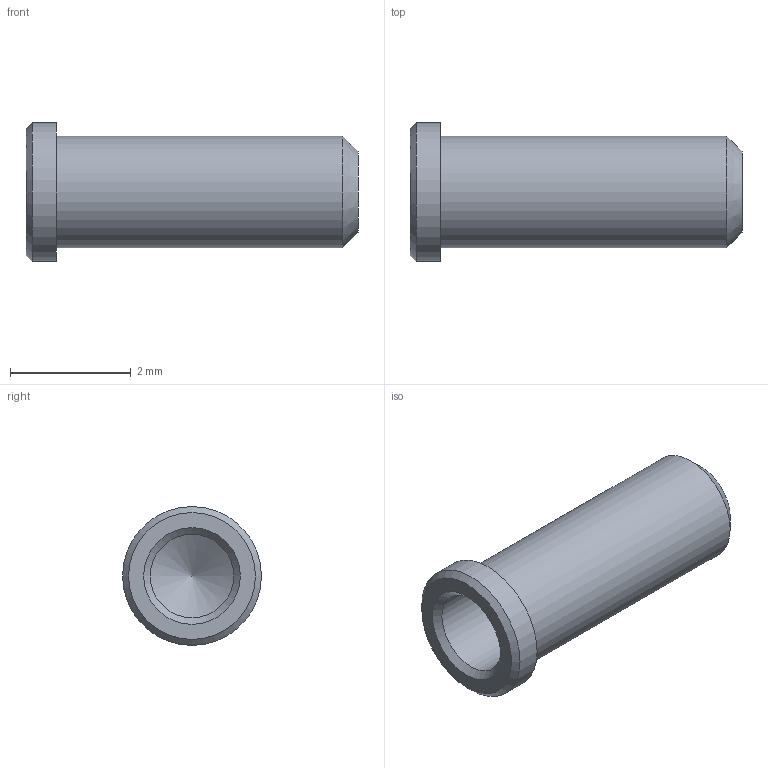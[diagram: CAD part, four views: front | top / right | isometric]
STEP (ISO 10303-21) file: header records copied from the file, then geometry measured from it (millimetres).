
FILE_DESCRIPTION(/* description */ (''),/* implementation_level */ '2;1');
FILE_NAME(/* name */ '\\Snap1\dwgs\Customer 3D Models\450\450-8121 Customer model.stp',/* time_stamp */ '2017-01-17T15:10:50+00:00',/* author */ ('paulk'),/* organization */ (''),/* preprocessor_version */ 'ST-DEVELOPER v15.2',/* originating_system */ 'Autodesk Inventor 2014',/* authorisation */ '');
FILE_SCHEMA (('CONFIG_CONTROL_DESIGN'));
Length unit declared in the file: millimetre
Products named in the file (1): 320-8122
Bounding box: 5.5 x 2.3 x 2.3 mm (x, y, z)
Volume: 7.8 mm3; surface area: 60.9 mm2
Topology: 1 solids, 1 shells, 10 faces, 17 edges, 10 vertices
Faces by surface type: cone 4, cylinder 3, plane 3
Full cylindrical faces by diameter (mm): 1.38 x1, 1.854 x1, 2.3 x1
Entity records: 215 total; most frequent: DIRECTION 40, CARTESIAN_POINT 29, AXIS2_PLACEMENT_3D 20, EDGE_LOOP 18, ORIENTED_EDGE 18, FACE_BOUND 10, ADVANCED_FACE 10, CIRCLE 9
